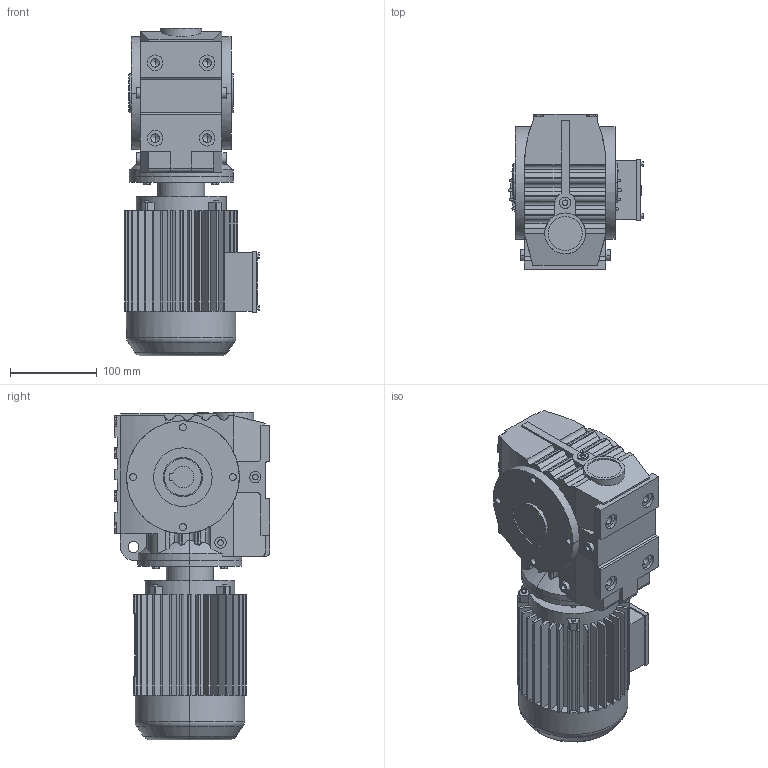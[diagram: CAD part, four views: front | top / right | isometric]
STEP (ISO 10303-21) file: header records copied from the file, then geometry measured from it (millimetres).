
FILE_DESCRIPTION(('Open CASCADE Model'),'2;1');
FILE_NAME('Open CASCADE Shape Model','2021-07-20T11:04:44',('Author'),( 'Open CASCADE'),'Open CASCADE STEP processor 6.3','Open CASCADE 6.3' ,'Unknown');
FILE_SCHEMA(('AUTOMOTIVE_DESIGN_CC2 { 1 2 10303 214 -1 1 5 4 }'));
Length unit declared in the file: millimetre
Products named in the file (4): 1_SA47-Y63S-25-A-W; SA47‵97_47.step; 萇儂_120_Y63S.step; す瑩諾陑粣S_47_25.step
Assembly tree (3 placements, depth 2):
  1_SA47-Y63S-25-A-W
    SA47‵97_47.step
    萇儂_120_Y63S.step
    す瑩諾陑粣S_47_25.step
Bounding box: 155 x 179 x 378 mm (x, y, z)
Volume: 4956174.4 mm3; surface area: 409289.4 mm2
Topology: 3 solids, 3 shells, 801 faces, 2104 edges, 1362 vertices
Faces by surface type: plane 523, cylinder 259, cone 15, torus 4
Entity records: 59389 total; most frequent: CARTESIAN_POINT 19923, DIRECTION 6699, ORIENTED_EDGE 4192, PCURVE 4192, DEFINITIONAL_REPRESENTATION 4192, LINE 3506, VECTOR 3506, EDGE_CURVE 2096
